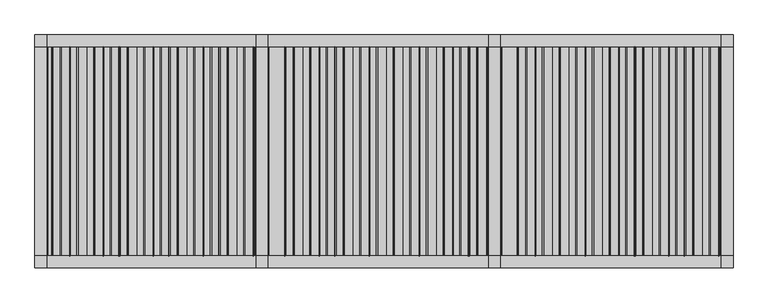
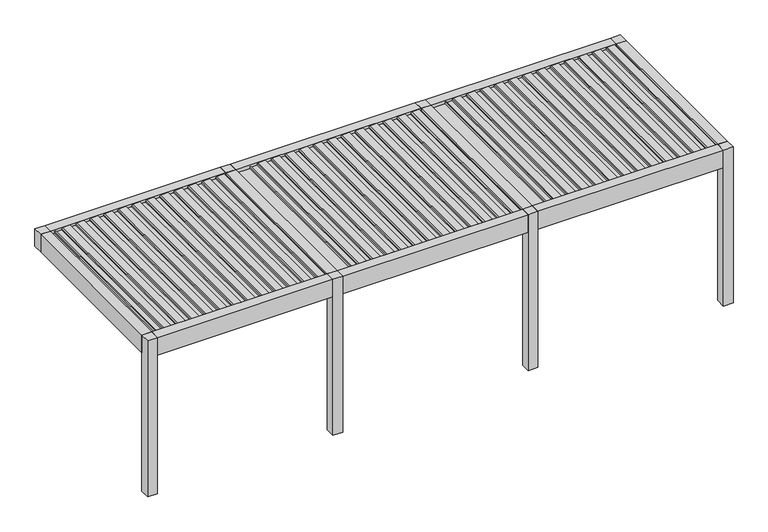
"""IFC4 building model written with IfcOpenShell, lengths in millimetres: proxy geometry, Renson_Amani_Patio_Cover : Renson_Amani_Patio_Cover."""

from ifc_helpers import new_model, si_unit, point, frame, frame_2d, origin, origin_with_axes, place, context, project, spatial, polyline, circle_curve, trimmed, segment, composite_curve, outline, extrude, source, transform, mapped, element, save


def generic_models_d71375b3(model_context):
    return source(origin(), model_context, "Body", "SweptSolid", [
        extrude(outline(composite_curve([segment(polyline([(2483.35, 7073.7289238), (2511.01198, 7076.1490335), (2512.3970364, 7104.984284), (2531.8911096, 7101.5469529), (2526.6075693, 6991.549838)]), True, "CONTINUOUS"), segment(trimmed(circle_curve(frame_2d((2511.6248435, 6992.26951)), 15.0), [point((2526.6075693, 6991.549838))], [point((2514.2295662, 6977.4973937))], False, "CARTESIAN"), True, "CONTINUOUS"), segment(polyline([(2514.2295662, 6977.4973937), (2495.0, 6974.1067023), (2495.0, 6886.3709263), (2512.0788237, 6883.3594689), (2511.3450182, 6868.0824984), (2483.35, 6865.6332517), (2483.35, 7073.7289238)]), True, "CONTINUOUS")], self_intersect=False)), frame((0.0, -1350.0, 0.0), z_axis=(0.0, 1.0, 0.0), x_axis=(0.0, 0.0, 1.0)), (0.0, 0.0, 1.0), 2700.0),
        extrude(outline(composite_curve([segment(polyline([(2483.35, 6858.7132078), (2511.01198, 6861.1333174), (2512.3970364, 6889.9685679), (2531.8911096, 6886.5312368), (2526.6075693, 6776.534122)]), True, "CONTINUOUS"), segment(trimmed(circle_curve(frame_2d((2511.6248435, 6777.2537939)), 15.0), [point((2526.6075693, 6776.534122))], [point((2514.2295662, 6762.4816776))], False, "CARTESIAN"), True, "CONTINUOUS"), segment(polyline([(2514.2295662, 6762.4816776), (2495.0, 6759.0909863), (2495.0, 6671.3552102), (2512.0788237, 6668.3437528), (2511.3450182, 6653.0667824), (2483.35, 6650.6175356), (2483.35, 6858.7132078)]), True, "CONTINUOUS")], self_intersect=False)), frame((0.0, -1350.0, 0.0), z_axis=(0.0, 1.0, 0.0), x_axis=(0.0, 0.0, 1.0)), (0.0, 0.0, 1.0), 2700.0),
        extrude(outline(composite_curve([segment(polyline([(2483.35, 6643.6974917), (2511.01198, 6646.1176014), (2512.3970364, 6674.9528519), (2531.8911096, 6671.5155208), (2526.6075693, 6561.5184059)]), True, "CONTINUOUS"), segment(trimmed(circle_curve(frame_2d((2511.6248435, 6562.2380779)), 15.0), [point((2526.6075693, 6561.5184059))], [point((2514.2295662, 6547.4659616))], False, "CARTESIAN"), True, "CONTINUOUS"), segment(polyline([(2514.2295662, 6547.4659616), (2495.0, 6544.0752702), (2495.0, 6456.3394942), (2512.0788237, 6453.3280368), (2511.3450182, 6438.0510663), (2483.35, 6435.6018196), (2483.35, 6643.6974917)]), True, "CONTINUOUS")], self_intersect=False)), frame((0.0, -1350.0, 0.0), z_axis=(0.0, 1.0, 0.0), x_axis=(0.0, 0.0, 1.0)), (0.0, 0.0, 1.0), 2700.0),
        extrude(outline(composite_curve([segment(polyline([(2483.35, 6428.6817757), (2511.01198, 6431.1018854), (2512.3970364, 6459.9371358), (2531.8911096, 6456.4998047), (2526.6075693, 6346.5026899)]), True, "CONTINUOUS"), segment(trimmed(circle_curve(frame_2d((2511.6248435, 6347.2223618)), 15.0), [point((2526.6075693, 6346.5026899))], [point((2514.2295662, 6332.4502455))], False, "CARTESIAN"), True, "CONTINUOUS"), segment(polyline([(2514.2295662, 6332.4502455), (2495.0, 6329.0595542), (2495.0, 6241.3237782), (2512.0788237, 6238.3123207), (2511.3450182, 6223.0353503), (2483.35, 6220.5861035), (2483.35, 6428.6817757)]), True, "CONTINUOUS")], self_intersect=False)), frame((0.0, -1350.0, 0.0), z_axis=(0.0, 1.0, 0.0), x_axis=(0.0, 0.0, 1.0)), (0.0, 0.0, 1.0), 2700.0),
        extrude(outline(composite_curve([segment(polyline([(2483.35, 6213.6660597), (2511.01198, 6216.0861693), (2512.3970364, 6244.9214198), (2531.8911096, 6241.4840887), (2526.6075693, 6131.4869738)]), True, "CONTINUOUS"), segment(trimmed(circle_curve(frame_2d((2511.6248435, 6132.2066458)), 15.0), [point((2526.6075693, 6131.4869738))], [point((2514.2295662, 6117.4345295))], False, "CARTESIAN"), True, "CONTINUOUS"), segment(polyline([(2514.2295662, 6117.4345295), (2495.0, 6114.0438381), (2495.0, 6026.3080621), (2512.0788237, 6023.2966047), (2511.3450182, 6008.0196342), (2483.35, 6005.5703875), (2483.35, 6213.6660597)]), True, "CONTINUOUS")], self_intersect=False)), frame((0.0, -1350.0, 0.0), z_axis=(0.0, 1.0, 0.0), x_axis=(0.0, 0.0, 1.0)), (0.0, 0.0, 1.0), 2700.0),
        extrude(outline(composite_curve([segment(polyline([(2483.35, 5998.6503436), (2511.01198, 6001.0704533), (2512.3970364, 6029.9057037), (2531.8911096, 6026.4683726), (2526.6075693, 5916.4712578)]), True, "CONTINUOUS"), segment(trimmed(circle_curve(frame_2d((2511.6248435, 5917.1909297)), 15.0), [point((2526.6075693, 5916.4712578))], [point((2514.2295662, 5902.4188134))], False, "CARTESIAN"), True, "CONTINUOUS"), segment(polyline([(2514.2295662, 5902.4188134), (2495.0, 5899.0281221), (2495.0, 5811.2923461), (2512.0788237, 5808.2808886), (2511.3450182, 5793.0039182), (2483.35, 5790.5546714), (2483.35, 5998.6503436)]), True, "CONTINUOUS")], self_intersect=False)), frame((0.0, -1350.0, 0.0), z_axis=(0.0, 1.0, 0.0), x_axis=(0.0, 0.0, 1.0)), (0.0, 0.0, 1.0), 2700.0),
        extrude(outline(composite_curve([segment(polyline([(2483.35, 5783.6346276), (2511.01198, 5786.0547372), (2512.3970364, 5814.8899877), (2531.8911096, 5811.4526566), (2526.6075693, 5701.4555418)]), True, "CONTINUOUS"), segment(trimmed(circle_curve(frame_2d((2511.6248435, 5702.1752137)), 15.0), [point((2526.6075693, 5701.4555418))], [point((2514.2295662, 5687.4030974))], False, "CARTESIAN"), True, "CONTINUOUS"), segment(polyline([(2514.2295662, 5687.4030974), (2495.0, 5684.012406), (2495.0, 5596.27663), (2512.0788237, 5593.2651726), (2511.3450182, 5577.9882021), (2483.35, 5575.5389554), (2483.35, 5783.6346276)]), True, "CONTINUOUS")], self_intersect=False)), frame((0.0, -1350.0, 0.0), z_axis=(0.0, 1.0, 0.0), x_axis=(0.0, 0.0, 1.0)), (0.0, 0.0, 1.0), 2700.0),
        extrude(outline(composite_curve([segment(polyline([(2483.35, 5568.6189115), (2511.01198, 5571.0390212), (2512.3970364, 5599.8742716), (2531.8911096, 5596.4369406), (2526.6075693, 5486.4398257)]), True, "CONTINUOUS"), segment(trimmed(circle_curve(frame_2d((2511.6248435, 5487.1594976)), 15.0), [point((2526.6075693, 5486.4398257))], [point((2514.2295662, 5472.3873813))], False, "CARTESIAN"), True, "CONTINUOUS"), segment(polyline([(2514.2295662, 5472.3873813), (2495.0, 5468.99669), (2495.0, 5381.260914), (2512.0788237, 5378.2494566), (2511.3450182, 5362.9724861), (2483.35, 5360.5232394), (2483.35, 5568.6189115)]), True, "CONTINUOUS")], self_intersect=False)), frame((0.0, -1350.0, 0.0), z_axis=(0.0, 1.0, 0.0), x_axis=(0.0, 0.0, 1.0)), (0.0, 0.0, 1.0), 2700.0),
        extrude(outline(composite_curve([segment(polyline([(2483.35, 5353.6031955), (2511.01198, 5356.0233051), (2512.3970364, 5384.8585556), (2531.8911096, 5381.4212245), (2526.6075693, 5271.4241097)]), True, "CONTINUOUS"), segment(trimmed(circle_curve(frame_2d((2511.6248435, 5272.1437816)), 15.0), [point((2526.6075693, 5271.4241097))], [point((2514.2295662, 5257.3716653))], False, "CARTESIAN"), True, "CONTINUOUS"), segment(polyline([(2514.2295662, 5257.3716653), (2495.0, 5253.980974), (2495.0, 5166.2451979), (2512.0788237, 5163.2337405), (2511.3450182, 5147.95677), (2483.35, 5145.5075233), (2483.35, 5353.6031955)]), True, "CONTINUOUS")], self_intersect=False)), frame((0.0, -1350.0, 0.0), z_axis=(0.0, 1.0, 0.0), x_axis=(0.0, 0.0, 1.0)), (0.0, 0.0, 1.0), 2700.0),
        extrude(outline(composite_curve([segment(polyline([(2483.35, 5138.5874794), (2511.01198, 5141.0075891), (2512.3970364, 5169.8428395), (2531.8911096, 5166.4055085), (2526.6075693, 5056.4083936)]), True, "CONTINUOUS"), segment(trimmed(circle_curve(frame_2d((2511.6248435, 5057.1280655)), 15.0), [point((2526.6075693, 5056.4083936))], [point((2514.2295662, 5042.3559492))], False, "CARTESIAN"), True, "CONTINUOUS"), segment(polyline([(2514.2295662, 5042.3559492), (2495.0, 5038.9652579), (2495.0, 4951.2294819), (2512.0788237, 4948.2180245), (2511.3450182, 4932.941054), (2483.35, 4930.4918073), (2483.35, 5138.5874794)]), True, "CONTINUOUS")], self_intersect=False)), frame((0.0, -1350.0, 0.0), z_axis=(0.0, 1.0, 0.0), x_axis=(0.0, 0.0, 1.0)), (0.0, 0.0, 1.0), 2700.0),
        extrude(outline(composite_curve([segment(polyline([(2483.35, 7288.7446399), (2511.01198, 7291.1647495), (2512.3970364, 7320.0), (2531.8911096, 7316.5626689), (2526.6075693, 7206.5655541)]), True, "CONTINUOUS"), segment(trimmed(circle_curve(frame_2d((2511.6248435, 7207.285226)), 15.0), [point((2526.6075693, 7206.5655541))], [point((2514.2295662, 7192.5131097))], False, "CARTESIAN"), True, "CONTINUOUS"), segment(polyline([(2514.2295662, 7192.5131097), (2495.0, 7189.1224184), (2495.0, 7101.3866423), (2512.0788237, 7098.3751849), (2511.3450182, 7083.0982144), (2483.35, 7080.6489677), (2483.35, 7288.7446399)]), True, "CONTINUOUS")], self_intersect=False)), frame((0.0, -1350.0, 0.0), z_axis=(0.0, 1.0, 0.0), x_axis=(0.0, 0.0, 1.0)), (0.0, 0.0, 1.0), 2700.0),
        extrude(outline(composite_curve([segment(polyline([(2483.35, 4923.5717634), (2511.01198, 4925.991873), (2512.3970364, 4954.8271235), (2531.8911096, 4951.3897924), (2526.6075693, 4841.3926776)]), True, "CONTINUOUS"), segment(trimmed(circle_curve(frame_2d((2511.6248435, 4842.1123495)), 15.0), [point((2526.6075693, 4841.3926776))], [point((2514.2295662, 4827.3402332))], False, "CARTESIAN"), True, "CONTINUOUS"), segment(polyline([(2514.2295662, 4827.3402332), (2495.0, 4823.9495419), (2495.0, 4736.2137658), (2512.0788237, 4733.2023084), (2511.3450182, 4717.9253379), (2483.35, 4715.4760912), (2483.35, 4923.5717634)]), True, "CONTINUOUS")], self_intersect=False)), frame((0.0, -1350.0, 0.0), z_axis=(0.0, 1.0, 0.0), x_axis=(0.0, 0.0, 1.0)), (0.0, 0.0, 1.0), 2700.0),
        extrude(outline(composite_curve([segment(polyline([(2483.35, 4073.7289238), (2511.01198, 4076.1490335), (2512.3970364, 4104.984284), (2531.8911096, 4101.5469529), (2526.6075693, 3991.549838)]), True, "CONTINUOUS"), segment(trimmed(circle_curve(frame_2d((2511.6248435, 3992.26951)), 15.0), [point((2526.6075693, 3991.549838))], [point((2514.2295662, 3977.4973937))], False, "CARTESIAN"), True, "CONTINUOUS"), segment(polyline([(2514.2295662, 3977.4973937), (2495.0, 3974.1067023), (2495.0, 3886.3709263), (2512.0788237, 3883.3594689), (2511.3450182, 3868.0824984), (2483.35, 3865.6332517), (2483.35, 4073.7289238)]), True, "CONTINUOUS")], self_intersect=False)), frame((0.0, -1350.0, 0.0), z_axis=(0.0, 1.0, 0.0), x_axis=(0.0, 0.0, 1.0)), (0.0, 0.0, 1.0), 2700.0),
        extrude(outline(composite_curve([segment(polyline([(2483.35, 3858.7132078), (2511.01198, 3861.1333174), (2512.3970364, 3889.9685679), (2531.8911096, 3886.5312368), (2526.6075693, 3776.534122)]), True, "CONTINUOUS"), segment(trimmed(circle_curve(frame_2d((2511.6248435, 3777.2537939)), 15.0), [point((2526.6075693, 3776.534122))], [point((2514.2295662, 3762.4816776))], False, "CARTESIAN"), True, "CONTINUOUS"), segment(polyline([(2514.2295662, 3762.4816776), (2495.0, 3759.0909863), (2495.0, 3671.3552102), (2512.0788237, 3668.3437528), (2511.3450182, 3653.0667824), (2483.35, 3650.6175356), (2483.35, 3858.7132078)]), True, "CONTINUOUS")], self_intersect=False)), frame((0.0, -1350.0, 0.0), z_axis=(0.0, 1.0, 0.0), x_axis=(0.0, 0.0, 1.0)), (0.0, 0.0, 1.0), 2700.0),
        extrude(outline(composite_curve([segment(polyline([(2483.35, 3643.6974917), (2511.01198, 3646.1176014), (2512.3970364, 3674.9528519), (2531.8911096, 3671.5155208), (2526.6075693, 3561.5184059)]), True, "CONTINUOUS"), segment(trimmed(circle_curve(frame_2d((2511.6248435, 3562.2380779)), 15.0), [point((2526.6075693, 3561.5184059))], [point((2514.2295662, 3547.4659616))], False, "CARTESIAN"), True, "CONTINUOUS"), segment(polyline([(2514.2295662, 3547.4659616), (2495.0, 3544.0752702), (2495.0, 3456.3394942), (2512.0788237, 3453.3280368), (2511.3450182, 3438.0510663), (2483.35, 3435.6018196), (2483.35, 3643.6974917)]), True, "CONTINUOUS")], self_intersect=False)), frame((0.0, -1350.0, 0.0), z_axis=(0.0, 1.0, 0.0), x_axis=(0.0, 0.0, 1.0)), (0.0, 0.0, 1.0), 2700.0),
        extrude(outline(composite_curve([segment(polyline([(2483.35, 3428.6817757), (2511.01198, 3431.1018854), (2512.3970364, 3459.9371358), (2531.8911096, 3456.4998047), (2526.6075693, 3346.5026899)]), True, "CONTINUOUS"), segment(trimmed(circle_curve(frame_2d((2511.6248435, 3347.2223618)), 15.0), [point((2526.6075693, 3346.5026899))], [point((2514.2295662, 3332.4502455))], False, "CARTESIAN"), True, "CONTINUOUS"), segment(polyline([(2514.2295662, 3332.4502455), (2495.0, 3329.0595542), (2495.0, 3241.3237782), (2512.0788237, 3238.3123207), (2511.3450182, 3223.0353503), (2483.35, 3220.5861035), (2483.35, 3428.6817757)]), True, "CONTINUOUS")], self_intersect=False)), frame((0.0, -1350.0, 0.0), z_axis=(0.0, 1.0, 0.0), x_axis=(0.0, 0.0, 1.0)), (0.0, 0.0, 1.0), 2700.0),
        extrude(outline(composite_curve([segment(polyline([(2483.35, 3213.6660597), (2511.01198, 3216.0861693), (2512.3970364, 3244.9214198), (2531.8911096, 3241.4840887), (2526.6075693, 3131.4869738)]), True, "CONTINUOUS"), segment(trimmed(circle_curve(frame_2d((2511.6248435, 3132.2066458)), 15.0), [point((2526.6075693, 3131.4869738))], [point((2514.2295662, 3117.4345295))], False, "CARTESIAN"), True, "CONTINUOUS"), segment(polyline([(2514.2295662, 3117.4345295), (2495.0, 3114.0438381), (2495.0, 3026.3080621), (2512.0788237, 3023.2966047), (2511.3450182, 3008.0196342), (2483.35, 3005.5703875), (2483.35, 3213.6660597)]), True, "CONTINUOUS")], self_intersect=False)), frame((0.0, -1350.0, 0.0), z_axis=(0.0, 1.0, 0.0), x_axis=(0.0, 0.0, 1.0)), (0.0, 0.0, 1.0), 2700.0),
        extrude(outline(composite_curve([segment(polyline([(2483.35, 2998.6503436), (2511.01198, 3001.0704533), (2512.3970364, 3029.9057037), (2531.8911096, 3026.4683726), (2526.6075693, 2916.4712578)]), True, "CONTINUOUS"), segment(trimmed(circle_curve(frame_2d((2511.6248435, 2917.1909297)), 15.0), [point((2526.6075693, 2916.4712578))], [point((2514.2295662, 2902.4188134))], False, "CARTESIAN"), True, "CONTINUOUS"), segment(polyline([(2514.2295662, 2902.4188134), (2495.0, 2899.0281221), (2495.0, 2811.2923461), (2512.0788237, 2808.2808886), (2511.3450182, 2793.0039182), (2483.35, 2790.5546714), (2483.35, 2998.6503436)]), True, "CONTINUOUS")], self_intersect=False)), frame((0.0, -1350.0, 0.0), z_axis=(0.0, 1.0, 0.0), x_axis=(0.0, 0.0, 1.0)), (0.0, 0.0, 1.0), 2700.0),
        extrude(outline(composite_curve([segment(polyline([(2483.35, 2783.6346276), (2511.01198, 2786.0547372), (2512.3970364, 2814.8899877), (2531.8911096, 2811.4526566), (2526.6075693, 2701.4555418)]), True, "CONTINUOUS"), segment(trimmed(circle_curve(frame_2d((2511.6248435, 2702.1752137)), 15.0), [point((2526.6075693, 2701.4555418))], [point((2514.2295662, 2687.4030974))], False, "CARTESIAN"), True, "CONTINUOUS"), segment(polyline([(2514.2295662, 2687.4030974), (2495.0, 2684.012406), (2495.0, 2596.27663), (2512.0788237, 2593.2651726), (2511.3450182, 2577.9882021), (2483.35, 2575.5389554), (2483.35, 2783.6346276)]), True, "CONTINUOUS")], self_intersect=False)), frame((0.0, -1350.0, 0.0), z_axis=(0.0, 1.0, 0.0), x_axis=(0.0, 0.0, 1.0)), (0.0, 0.0, 1.0), 2700.0),
        extrude(outline(composite_curve([segment(polyline([(2483.35, 2568.6189115), (2511.01198, 2571.0390212), (2512.3970364, 2599.8742716), (2531.8911096, 2596.4369406), (2526.6075693, 2486.4398257)]), True, "CONTINUOUS"), segment(trimmed(circle_curve(frame_2d((2511.6248435, 2487.1594976)), 15.0), [point((2526.6075693, 2486.4398257))], [point((2514.2295662, 2472.3873813))], False, "CARTESIAN"), True, "CONTINUOUS"), segment(polyline([(2514.2295662, 2472.3873813), (2495.0, 2468.99669), (2495.0, 2381.260914), (2512.0788237, 2378.2494566), (2511.3450182, 2362.9724861), (2483.35, 2360.5232394), (2483.35, 2568.6189115)]), True, "CONTINUOUS")], self_intersect=False)), frame((0.0, -1350.0, 0.0), z_axis=(0.0, 1.0, 0.0), x_axis=(0.0, 0.0, 1.0)), (0.0, 0.0, 1.0), 2700.0),
        extrude(outline(composite_curve([segment(polyline([(2483.35, 2353.6031955), (2511.01198, 2356.0233051), (2512.3970364, 2384.8585556), (2531.8911096, 2381.4212245), (2526.6075693, 2271.4241097)]), True, "CONTINUOUS"), segment(trimmed(circle_curve(frame_2d((2511.6248435, 2272.1437816)), 15.0), [point((2526.6075693, 2271.4241097))], [point((2514.2295662, 2257.3716653))], False, "CARTESIAN"), True, "CONTINUOUS"), segment(polyline([(2514.2295662, 2257.3716653), (2495.0, 2253.980974), (2495.0, 2166.2451979), (2512.0788237, 2163.2337405), (2511.3450182, 2147.95677), (2483.35, 2145.5075233), (2483.35, 2353.6031955)]), True, "CONTINUOUS")], self_intersect=False)), frame((0.0, -1350.0, 0.0), z_axis=(0.0, 1.0, 0.0), x_axis=(0.0, 0.0, 1.0)), (0.0, 0.0, 1.0), 2700.0),
        extrude(outline(composite_curve([segment(polyline([(2483.35, 2138.5874794), (2511.01198, 2141.0075891), (2512.3970364, 2169.8428395), (2531.8911096, 2166.4055085), (2526.6075693, 2056.4083936)]), True, "CONTINUOUS"), segment(trimmed(circle_curve(frame_2d((2511.6248435, 2057.1280655)), 15.0), [point((2526.6075693, 2056.4083936))], [point((2514.2295662, 2042.3559492))], False, "CARTESIAN"), True, "CONTINUOUS"), segment(polyline([(2514.2295662, 2042.3559492), (2495.0, 2038.9652579), (2495.0, 1951.2294819), (2512.0788237, 1948.2180245), (2511.3450182, 1932.941054), (2483.35, 1930.4918073), (2483.35, 2138.5874794)]), True, "CONTINUOUS")], self_intersect=False)), frame((0.0, -1350.0, 0.0), z_axis=(0.0, 1.0, 0.0), x_axis=(0.0, 0.0, 1.0)), (0.0, 0.0, 1.0), 2700.0),
        extrude(outline(composite_curve([segment(polyline([(2483.35, 4288.7446399), (2511.01198, 4291.1647495), (2512.3970364, 4320.0), (2531.8911096, 4316.5626689), (2526.6075693, 4206.5655541)]), True, "CONTINUOUS"), segment(trimmed(circle_curve(frame_2d((2511.6248435, 4207.285226)), 15.0), [point((2526.6075693, 4206.5655541))], [point((2514.2295662, 4192.5131097))], False, "CARTESIAN"), True, "CONTINUOUS"), segment(polyline([(2514.2295662, 4192.5131097), (2495.0, 4189.1224184), (2495.0, 4101.3866423), (2512.0788237, 4098.3751849), (2511.3450182, 4083.0982144), (2483.35, 4080.6489677), (2483.35, 4288.7446399)]), True, "CONTINUOUS")], self_intersect=False)), frame((0.0, -1350.0, 0.0), z_axis=(0.0, 1.0, 0.0), x_axis=(0.0, 0.0, 1.0)), (0.0, 0.0, 1.0), 2700.0),
        extrude(outline(composite_curve([segment(polyline([(2483.35, 1923.5717634), (2511.01198, 1925.991873), (2512.3970364, 1954.8271235), (2531.8911096, 1951.3897924), (2526.6075693, 1841.3926776)]), True, "CONTINUOUS"), segment(trimmed(circle_curve(frame_2d((2511.6248435, 1842.1123495)), 15.0), [point((2526.6075693, 1841.3926776))], [point((2514.2295662, 1827.3402332))], False, "CARTESIAN"), True, "CONTINUOUS"), segment(polyline([(2514.2295662, 1827.3402332), (2495.0, 1823.9495419), (2495.0, 1736.2137658), (2512.0788237, 1733.2023084), (2511.3450182, 1717.9253379), (2483.35, 1715.4760912), (2483.35, 1923.5717634)]), True, "CONTINUOUS")], self_intersect=False)), frame((0.0, -1350.0, 0.0), z_axis=(0.0, 1.0, 0.0), x_axis=(0.0, 0.0, 1.0)), (0.0, 0.0, 1.0), 2700.0),
        extrude(outline(composite_curve([segment(polyline([(2483.35, 1073.7289238), (2511.01198, 1076.1490335), (2512.3970364, 1104.984284), (2531.8911096, 1101.5469529), (2526.6075693, 991.549838)]), True, "CONTINUOUS"), segment(trimmed(circle_curve(frame_2d((2511.6248435, 992.26951)), 15.0), [point((2526.6075693, 991.549838))], [point((2514.2295662, 977.4973937))], False, "CARTESIAN"), True, "CONTINUOUS"), segment(polyline([(2514.2295662, 977.4973937), (2495.0, 974.1067023), (2495.0, 886.3709263), (2512.0788237, 883.3594689), (2511.3450182, 868.0824984), (2483.35, 865.6332517), (2483.35, 1073.7289238)]), True, "CONTINUOUS")], self_intersect=False)), frame((0.0, -1350.0, 0.0), z_axis=(0.0, 1.0, 0.0), x_axis=(0.0, 0.0, 1.0)), (0.0, 0.0, 1.0), 2700.0),
        extrude(outline(composite_curve([segment(polyline([(2483.35, 858.7132078), (2511.01198, 861.1333174), (2512.3970364, 889.9685679), (2531.8911096, 886.5312368), (2526.6075693, 776.534122)]), True, "CONTINUOUS"), segment(trimmed(circle_curve(frame_2d((2511.6248435, 777.2537939)), 15.0), [point((2526.6075693, 776.534122))], [point((2514.2295662, 762.4816776))], False, "CARTESIAN"), True, "CONTINUOUS"), segment(polyline([(2514.2295662, 762.4816776), (2495.0, 759.0909863), (2495.0, 671.3552102), (2512.0788237, 668.3437528), (2511.3450182, 653.0667824), (2483.35, 650.6175356), (2483.35, 858.7132078)]), True, "CONTINUOUS")], self_intersect=False)), frame((0.0, -1350.0, 0.0), z_axis=(0.0, 1.0, 0.0), x_axis=(0.0, 0.0, 1.0)), (0.0, 0.0, 1.0), 2700.0),
        extrude(outline(composite_curve([segment(polyline([(2483.35, 643.6974917), (2511.01198, 646.1176014), (2512.3970364, 674.9528519), (2531.8911096, 671.5155208), (2526.6075693, 561.5184059)]), True, "CONTINUOUS"), segment(trimmed(circle_curve(frame_2d((2511.6248435, 562.2380779)), 15.0), [point((2526.6075693, 561.5184059))], [point((2514.2295662, 547.4659616))], False, "CARTESIAN"), True, "CONTINUOUS"), segment(polyline([(2514.2295662, 547.4659616), (2495.0, 544.0752702), (2495.0, 456.3394942), (2512.0788237, 453.3280368), (2511.3450182, 438.0510663), (2483.35, 435.6018196), (2483.35, 643.6974917)]), True, "CONTINUOUS")], self_intersect=False)), frame((0.0, -1350.0, 0.0), z_axis=(0.0, 1.0, 0.0), x_axis=(0.0, 0.0, 1.0)), (0.0, 0.0, 1.0), 2700.0),
        extrude(outline(composite_curve([segment(polyline([(2483.35, 428.6817757), (2511.01198, 431.1018854), (2512.3970364, 459.9371358), (2531.8911096, 456.4998047), (2526.6075693, 346.5026899)]), True, "CONTINUOUS"), segment(trimmed(circle_curve(frame_2d((2511.6248435, 347.2223618)), 15.0), [point((2526.6075693, 346.5026899))], [point((2514.2295662, 332.4502455))], False, "CARTESIAN"), True, "CONTINUOUS"), segment(polyline([(2514.2295662, 332.4502455), (2495.0, 329.0595542), (2495.0, 241.3237782), (2512.0788237, 238.3123207), (2511.3450182, 223.0353503), (2483.35, 220.5861035), (2483.35, 428.6817757)]), True, "CONTINUOUS")], self_intersect=False)), frame((0.0, -1350.0, 0.0), z_axis=(0.0, 1.0, 0.0), x_axis=(0.0, 0.0, 1.0)), (0.0, 0.0, 1.0), 2700.0),
        extrude(outline(composite_curve([segment(polyline([(2483.35, 213.6660597), (2511.01198, 216.0861693), (2512.3970364, 244.9214198), (2531.8911096, 241.4840887), (2526.6075693, 131.4869738)]), True, "CONTINUOUS"), segment(trimmed(circle_curve(frame_2d((2511.6248435, 132.2066458)), 15.0), [point((2526.6075693, 131.4869738))], [point((2514.2295662, 117.4345295))], False, "CARTESIAN"), True, "CONTINUOUS"), segment(polyline([(2514.2295662, 117.4345295), (2495.0, 114.0438381), (2495.0, 26.3080621), (2512.0788237, 23.2966047), (2511.3450182, 8.0196342), (2483.35, 5.5703875), (2483.35, 213.6660597)]), True, "CONTINUOUS")], self_intersect=False)), frame((0.0, -1350.0, 0.0), z_axis=(0.0, 1.0, 0.0), x_axis=(0.0, 0.0, 1.0)), (0.0, 0.0, 1.0), 2700.0),
        extrude(outline(composite_curve([segment(polyline([(2483.35, -1.3496564), (2511.01198, 1.0704533), (2512.3970364, 29.9057037), (2531.8911096, 26.4683726), (2526.6075693, -83.5287422)]), True, "CONTINUOUS"), segment(trimmed(circle_curve(frame_2d((2511.6248435, -82.8090703)), 15.0), [point((2526.6075693, -83.5287422))], [point((2514.2295662, -97.5811866))], False, "CARTESIAN"), True, "CONTINUOUS"), segment(polyline([(2514.2295662, -97.5811866), (2495.0, -100.9718779), (2495.0, -188.7076539), (2512.0788237, -191.7191114), (2511.3450182, -206.9960818), (2483.35, -209.4453286), (2483.35, -1.3496564)]), True, "CONTINUOUS")], self_intersect=False)), frame((0.0, -1350.0, 0.0), z_axis=(0.0, 1.0, 0.0), x_axis=(0.0, 0.0, 1.0)), (0.0, 0.0, 1.0), 2700.0),
        extrude(outline(composite_curve([segment(polyline([(2483.35, -216.3653724), (2511.01198, -213.9452628), (2512.3970364, -185.1100123), (2531.8911096, -188.5473434), (2526.6075693, -298.5444582)]), True, "CONTINUOUS"), segment(trimmed(circle_curve(frame_2d((2511.6248435, -297.8247863)), 15.0), [point((2526.6075693, -298.5444582))], [point((2514.2295662, -312.5969026))], False, "CARTESIAN"), True, "CONTINUOUS"), segment(polyline([(2514.2295662, -312.5969026), (2495.0, -315.987594), (2495.0, -403.72337), (2512.0788237, -406.7348274), (2511.3450182, -422.0117979), (2483.35, -424.4610446), (2483.35, -216.3653724)]), True, "CONTINUOUS")], self_intersect=False)), frame((0.0, -1350.0, 0.0), z_axis=(0.0, 1.0, 0.0), x_axis=(0.0, 0.0, 1.0)), (0.0, 0.0, 1.0), 2700.0),
        extrude(outline(composite_curve([segment(polyline([(2483.35, -431.3810885), (2511.01198, -428.9609788), (2512.3970364, -400.1257284), (2531.8911096, -403.5630594), (2526.6075693, -513.5601743)]), True, "CONTINUOUS"), segment(trimmed(circle_curve(frame_2d((2511.6248435, -512.8405024)), 15.0), [point((2526.6075693, -513.5601743))], [point((2514.2295662, -527.6126187))], False, "CARTESIAN"), True, "CONTINUOUS"), segment(polyline([(2514.2295662, -527.6126187), (2495.0, -531.00331), (2495.0, -618.739086), (2512.0788237, -621.7505434), (2511.3450182, -637.0275139), (2483.35, -639.4767606), (2483.35, -431.3810885)]), True, "CONTINUOUS")], self_intersect=False)), frame((0.0, -1350.0, 0.0), z_axis=(0.0, 1.0, 0.0), x_axis=(0.0, 0.0, 1.0)), (0.0, 0.0, 1.0), 2700.0),
        extrude(outline(composite_curve([segment(polyline([(2483.35, -646.3968045), (2511.01198, -643.9766949), (2512.3970364, -615.1414444), (2531.8911096, -618.5787755), (2526.6075693, -728.5758903)]), True, "CONTINUOUS"), segment(trimmed(circle_curve(frame_2d((2511.6248435, -727.8562184)), 15.0), [point((2526.6075693, -728.5758903))], [point((2514.2295662, -742.6283347))], False, "CARTESIAN"), True, "CONTINUOUS"), segment(polyline([(2514.2295662, -742.6283347), (2495.0, -746.019026), (2495.0, -833.7548021), (2512.0788237, -836.7662595), (2511.3450182, -852.04323), (2483.35, -854.4924767), (2483.35, -646.3968045)]), True, "CONTINUOUS")], self_intersect=False)), frame((0.0, -1350.0, 0.0), z_axis=(0.0, 1.0, 0.0), x_axis=(0.0, 0.0, 1.0)), (0.0, 0.0, 1.0), 2700.0),
        extrude(outline(composite_curve([segment(polyline([(2483.35, -861.4125206), (2511.01198, -858.9924109), (2512.3970364, -830.1571605), (2531.8911096, -833.5944915), (2526.6075693, -943.5916064)]), True, "CONTINUOUS"), segment(trimmed(circle_curve(frame_2d((2511.6248435, -942.8719345)), 15.0), [point((2526.6075693, -943.5916064))], [point((2514.2295662, -957.6440508))], False, "CARTESIAN"), True, "CONTINUOUS"), segment(polyline([(2514.2295662, -957.6440508), (2495.0, -961.0347421), (2495.0, -1048.7705181), (2512.0788237, -1051.7819755), (2511.3450182, -1067.058946), (2483.35, -1069.5081927), (2483.35, -861.4125206)]), True, "CONTINUOUS")], self_intersect=False)), frame((0.0, -1350.0, 0.0), z_axis=(0.0, 1.0, 0.0), x_axis=(0.0, 0.0, 1.0)), (0.0, 0.0, 1.0), 2700.0),
        extrude(outline(composite_curve([segment(polyline([(2483.35, 1288.7446399), (2511.01198, 1291.1647495), (2512.3970364, 1320.0), (2531.8911096, 1316.5626689), (2526.6075693, 1206.5655541)]), True, "CONTINUOUS"), segment(trimmed(circle_curve(frame_2d((2511.6248435, 1207.285226)), 15.0), [point((2526.6075693, 1206.5655541))], [point((2514.2295662, 1192.5131097))], False, "CARTESIAN"), True, "CONTINUOUS"), segment(polyline([(2514.2295662, 1192.5131097), (2495.0, 1189.1224184), (2495.0, 1101.3866423), (2512.0788237, 1098.3751849), (2511.3450182, 1083.0982144), (2483.35, 1080.6489677), (2483.35, 1288.7446399)]), True, "CONTINUOUS")], self_intersect=False)), frame((0.0, -1350.0, 0.0), z_axis=(0.0, 1.0, 0.0), x_axis=(0.0, 0.0, 1.0)), (0.0, 0.0, 1.0), 2700.0),
        extrude(outline(composite_curve([segment(polyline([(2483.35, -1076.4282366), (2511.01198, -1074.008127), (2512.3970364, -1045.1728765), (2531.8911096, -1048.6102076), (2526.6075693, -1158.6073224)]), True, "CONTINUOUS"), segment(trimmed(circle_curve(frame_2d((2511.6248435, -1157.8876505)), 15.0), [point((2526.6075693, -1158.6073224))], [point((2514.2295662, -1172.6597668))], False, "CARTESIAN"), True, "CONTINUOUS"), segment(polyline([(2514.2295662, -1172.6597668), (2495.0, -1176.0504581), (2495.0, -1263.7862342), (2512.0788237, -1266.7976916), (2511.3450182, -1282.0746621), (2483.35, -1284.5239088), (2483.35, -1076.4282366)]), True, "CONTINUOUS")], self_intersect=False)), frame((0.0, -1350.0, 0.0), z_axis=(0.0, 1.0, 0.0), x_axis=(0.0, 0.0, 1.0)), (0.0, 0.0, 1.0), 2700.0),
        extrude(outline(polyline([(7500.0, -1350.0), (7500.0, -1500.0), (7350.0, -1500.0), (7350.0, -1350.0), (7500.0, -1350.0)])), origin_with_axes(), (0.0, 0.0, 1.0), 2535.0),
        extrude(outline(polyline([(7500.0, 1500.0), (7500.0, 1350.0), (7350.0, 1350.0), (7350.0, 1500.0), (7500.0, 1500.0)])), frame((0.0, 0.0, 2250.0), z_axis=(0.0, 0.0, 1.0), x_axis=(1.0, 0.0, 0.0)), (0.0, 0.0, 1.0), 285.0),
        extrude(outline(polyline([(4500.0, 1350.0), (4350.0, 1350.0), (4350.0, 1500.0), (4500.0, 1500.0), (4500.0, 1350.0)])), frame((0.0, 0.0, 2250.0), z_axis=(0.0, 0.0, 1.0), x_axis=(1.0, 0.0, 0.0)), (0.0, 0.0, 1.0), 285.0),
        extrude(outline(polyline([(1500.0, 1500.0), (1500.0, 1350.0), (1350.0, 1350.0), (1350.0, 1500.0), (1500.0, 1500.0)])), frame((0.0, 0.0, 2250.0), z_axis=(0.0, 0.0, 1.0), x_axis=(1.0, 0.0, 0.0)), (0.0, 0.0, 1.0), 285.0),
        extrude(outline(polyline([(-1350.0, 1500.0), (-1350.0, 1350.0), (-1500.0, 1350.0), (-1500.0, 1500.0), (-1350.0, 1500.0)])), frame((0.0, 0.0, 2250.0), z_axis=(0.0, 0.0, 1.0), x_axis=(1.0, 0.0, 0.0)), (0.0, 0.0, 1.0), 285.0),
        extrude(outline(polyline([(4500.0, -1350.0), (4500.0, -1500.0), (4350.0, -1500.0), (4350.0, -1350.0), (4500.0, -1350.0)])), origin_with_axes(), (0.0, 0.0, 1.0), 2535.0),
        extrude(outline(polyline([(1500.0, -1350.0), (1500.0, -1500.0), (1350.0, -1500.0), (1350.0, -1350.0), (1500.0, -1350.0)])), origin_with_axes(), (0.0, 0.0, 1.0), 2535.0),
        extrude(outline(polyline([(-1350.0, -1350.0), (-1350.0, -1500.0), (-1500.0, -1500.0), (-1500.0, -1350.0), (-1350.0, -1350.0)])), origin_with_axes(), (0.0, 0.0, 1.0), 2535.0),
        extrude(outline(polyline([(2466.6559373, 4500.0), (2466.6559373, 4710.0), (2480.6555802, 4713.7512887), (2480.6555802, 4520.4059055), (2496.400763, 4505.0), (2504.2449277, 4505.0), (2504.6823598, 4500.0), (2466.6559373, 4500.0)])), frame((0.0, -1350.0, 0.0), z_axis=(0.0, 1.0, 0.0), x_axis=(0.0, 0.0, 1.0)), (0.0, 0.0, 1.0), 2700.0),
        extrude(outline(polyline([(-1350.0, 2535.0), (-1350.0, 2322.0), (-1280.0000001, 2322.0), (-1280.0000001, 2250.0), (-1500.0, 2250.0), (-1500.0, 2535.0), (-1350.0, 2535.0)])), frame((4500.0, 0.0, 0.0), z_axis=(1.0, 0.0, 0.0), x_axis=(0.0, 1.0, 0.0)), (0.0, 0.0, 1.0), 2850.0),
        extrude(outline(polyline([(1500.0, 2250.0), (1280.0000001, 2250.0), (1280.0000001, 2322.0), (1350.0, 2322.0), (1350.0, 2535.0), (1500.0, 2535.0), (1500.0, 2250.0)])), frame((4500.0, 0.0, 0.0), z_axis=(1.0, 0.0, 0.0), x_axis=(0.0, 1.0, 0.0)), (0.0, 0.0, 1.0), 2850.0),
        extrude(outline(polyline([(2535.0, 7500.0), (2535.0, 7350.0), (2504.6823598, 7350.0), (2504.2449277, 7345.0), (2496.400763, 7345.0), (2480.6555802, 7329.2544156), (2480.6555802, 7319.9090324), (2466.6559373, 7323.6603211), (2466.6559373, 7350.0), (2250.0, 7350.0), (2250.0, 7500.0), (2535.0, 7500.0)])), frame((0.0, -1350.0, 0.0), z_axis=(0.0, 1.0, 0.0), x_axis=(0.0, 0.0, 1.0)), (0.0, 0.0, 1.0), 2700.0),
        extrude(outline(polyline([(2466.6559373, 1500.0), (2466.6559373, 1710.0), (2480.6555802, 1713.7512887), (2480.6555802, 1520.4059055), (2496.400763, 1505.0), (2504.2449277, 1505.0), (2504.6823598, 1500.0), (2466.6559373, 1500.0)])), frame((0.0, -1350.0, 0.0), z_axis=(0.0, 1.0, 0.0), x_axis=(0.0, 0.0, 1.0)), (0.0, 0.0, 1.0), 2700.0),
        extrude(outline(polyline([(-1350.0, 2535.0), (-1350.0, 2322.0), (-1280.0000001, 2322.0), (-1280.0000001, 2250.0), (-1500.0, 2250.0), (-1500.0, 2535.0), (-1350.0, 2535.0)])), frame((1500.0, 0.0, 0.0), z_axis=(1.0, 0.0, 0.0), x_axis=(0.0, 1.0, 0.0)), (0.0, 0.0, 1.0), 2850.0),
        extrude(outline(polyline([(1500.0, 2250.0), (1280.0000001, 2250.0), (1280.0000001, 2322.0), (1350.0, 2322.0), (1350.0, 2535.0), (1500.0, 2535.0), (1500.0, 2250.0)])), frame((1500.0, 0.0, 0.0), z_axis=(1.0, 0.0, 0.0), x_axis=(0.0, 1.0, 0.0)), (0.0, 0.0, 1.0), 2850.0),
        extrude(outline(polyline([(2535.0, 4500.0), (2535.0, 4350.0), (2504.6823598, 4350.0), (2504.2449277, 4345.0), (2496.400763, 4345.0), (2480.6555802, 4329.2544156), (2480.6555802, 4319.9090324), (2466.6559373, 4323.6603211), (2466.6559373, 4350.0), (2250.0, 4350.0), (2250.0, 4500.0), (2535.0, 4500.0)])), frame((0.0, -1350.0, 0.0), z_axis=(0.0, 1.0, 0.0), x_axis=(0.0, 0.0, 1.0)), (0.0, 0.0, 1.0), 2700.0),
        extrude(outline(polyline([(2466.6559373, -1350.0), (2466.6559373, -1290.0), (2480.6555802, -1286.2487113), (2480.6555802, -1329.5940945), (2496.400763, -1345.0), (2504.2449277, -1345.0), (2504.6823598, -1350.0), (2466.6559373, -1350.0)])), frame((0.0, -1350.0, 0.0), z_axis=(0.0, 1.0, 0.0), x_axis=(0.0, 0.0, 1.0)), (0.0, 0.0, 1.0), 2700.0),
        extrude(outline(polyline([(-1350.0, -1350.0), (-1500.0, -1350.0), (-1500.0, 1350.0), (-1350.0, 1350.0), (-1350.0, -1350.0)])), frame((0.0, 0.0, 2250.0), z_axis=(0.0, 0.0, 1.0), x_axis=(1.0, 0.0, 0.0)), (0.0, 0.0, 1.0), 285.0),
        extrude(outline(polyline([(2535.0, 1500.0), (2535.0, 1350.0), (2504.6904658, 1350.0), (2504.2449277, 1345.0), (2496.400763, 1345.0), (2480.6555802, 1329.2544156), (2480.6555802, 1319.9090324), (2466.6559373, 1323.6603211), (2466.6559373, 1350.0), (2250.0, 1350.0), (2250.0, 1500.0), (2535.0, 1500.0)])), frame((0.0, -1350.0, 0.0), z_axis=(0.0, 1.0, 0.0), x_axis=(0.0, 0.0, 1.0)), (0.0, 0.0, 1.0), 2700.0),
        extrude(outline(polyline([(-1350.0, 2535.0), (-1350.0, 2322.0), (-1280.0000001, 2322.0), (-1280.0000001, 2250.0), (-1500.0, 2250.0), (-1500.0, 2535.0), (-1350.0, 2535.0)])), frame((-1350.0, 0.0, 0.0), z_axis=(1.0, 0.0, 0.0), x_axis=(0.0, 1.0, 0.0)), (0.0, 0.0, 1.0), 2700.0),
        extrude(outline(polyline([(1500.0, 2250.0), (1280.0000001, 2250.0), (1280.0000001, 2322.0), (1350.0, 2322.0), (1350.0, 2535.0), (1500.0, 2535.0), (1500.0, 2250.0)])), frame((-1350.0, 0.0, 0.0), z_axis=(1.0, 0.0, 0.0), x_axis=(0.0, 1.0, 0.0)), (0.0, 0.0, 1.0), 2700.0),
    ])


if __name__ == "__main__":
    model = new_model("IFC4")
    model_context = context("Model", 3, world=origin())
    ifc_project = project(units=[si_unit("LENGTHUNIT", "METRE", prefix="MILLI")], contexts=[model_context])
    site = spatial("IfcSite", under=ifc_project)
    building = spatial("IfcBuilding", under=site)
    placement = place(None, origin())
    generic_models_shape = generic_models_d71375b3(model_context)
    element("IfcBuildingElementProxy", 1, Name="Renson_Amani_Patio_Cover : Renson_Amani_Patio_Cover", ObjectType="Renson_Amani_Patio_Cover : Renson_Amani_Patio_Cover", at=placement, inside=building, context=model_context, shape_type="MappedRepresentation", body=[
        mapped(generic_models_shape, transform((0.0, 0.0, 0.0), x_axis=(1.0, 0.0, 0.0), y_axis=(0.0, 1.0, 0.0), z_axis=(0.0, 0.0, 1.0))),
    ])
    save(model, "model.ifc")
